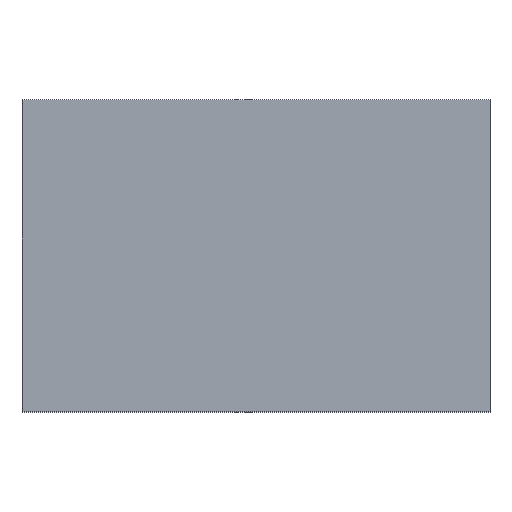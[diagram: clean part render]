
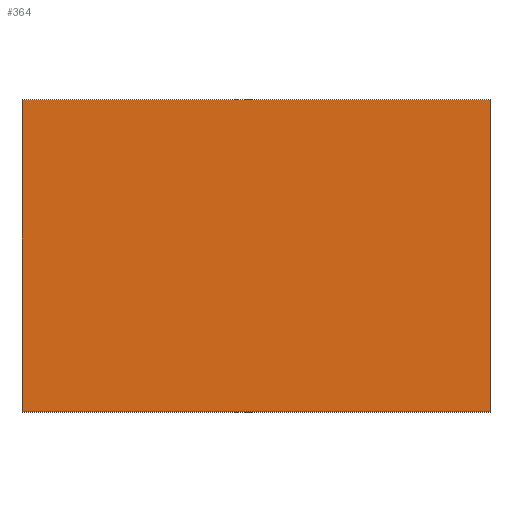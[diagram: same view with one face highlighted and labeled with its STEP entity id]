
A CAD part, top view. The second image highlights one B-rep face of the part: STEP entity #364.
In plain terms, the highlighted planar face has unit normal (0, 0, 1).
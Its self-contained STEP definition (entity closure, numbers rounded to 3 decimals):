
#50 = VERTEX_POINT('',#51);
#51 = CARTESIAN_POINT('',(-0.635,-1.27,4.66));
#58 = PLANE('',#59);
#59 = AXIS2_PLACEMENT_3D('',#60,#61,#62);
#60 = CARTESIAN_POINT('',(-0.635,-1.27,0.5));
#61 = DIRECTION('',(1.,0.,0.));
#62 = DIRECTION('',(0.,0.,1.));
#70 = PLANE('',#71);
#71 = AXIS2_PLACEMENT_3D('',#72,#73,#74);
#72 = CARTESIAN_POINT('',(-0.635,-1.27,0.5));
#73 = DIRECTION('',(0.,1.,0.));
#74 = DIRECTION('',(0.,0.,1.));
#111 = VERTEX_POINT('',#112);
#112 = CARTESIAN_POINT('',(-0.635,1.27,4.66));
#126 = PLANE('',#127);
#127 = AXIS2_PLACEMENT_3D('',#128,#129,#130);
#128 = CARTESIAN_POINT('',(-0.635,1.27,0.5));
#129 = DIRECTION('',(0.,1.,0.));
#130 = DIRECTION('',(0.,0.,1.));
#138 = EDGE_CURVE('',#50,#111,#139,.T.);
#139 = SURFACE_CURVE('',#140,(#144,#151),.PCURVE_S1.);
#140 = LINE('',#141,#142);
#141 = CARTESIAN_POINT('',(-0.635,-1.27,4.66));
#142 = VECTOR('',#143,1.);
#143 = DIRECTION('',(0.,1.,0.));
#144 = PCURVE('',#58,#145);
#145 = DEFINITIONAL_REPRESENTATION('',(#146),#150);
#146 = LINE('',#147,#148);
#147 = CARTESIAN_POINT('',(4.16,0.));
#148 = VECTOR('',#149,1.);
#149 = DIRECTION('',(0.,-1.));
#150 = ( GEOMETRIC_REPRESENTATION_CONTEXT(2) 
PARAMETRIC_REPRESENTATION_CONTEXT() REPRESENTATION_CONTEXT('2D SPACE',''
  ) );
#151 = PCURVE('',#152,#157);
#152 = PLANE('',#153);
#153 = AXIS2_PLACEMENT_3D('',#154,#155,#156);
#154 = CARTESIAN_POINT('',(-0.635,-1.27,4.66));
#155 = DIRECTION('',(0.,0.,1.));
#156 = DIRECTION('',(1.,0.,0.));
#157 = DEFINITIONAL_REPRESENTATION('',(#158),#162);
#158 = LINE('',#159,#160);
#159 = CARTESIAN_POINT('',(0.,0.));
#160 = VECTOR('',#161,1.);
#161 = DIRECTION('',(0.,1.));
#162 = ( GEOMETRIC_REPRESENTATION_CONTEXT(2) 
PARAMETRIC_REPRESENTATION_CONTEXT() REPRESENTATION_CONTEXT('2D SPACE',''
  ) );
#170 = VERTEX_POINT('',#171);
#171 = CARTESIAN_POINT('',(3.175,-1.27,4.66));
#178 = PLANE('',#179);
#179 = AXIS2_PLACEMENT_3D('',#180,#181,#182);
#180 = CARTESIAN_POINT('',(3.175,-1.27,0.5));
#181 = DIRECTION('',(1.,0.,0.));
#182 = DIRECTION('',(0.,0.,1.));
#221 = VERTEX_POINT('',#222);
#222 = CARTESIAN_POINT('',(3.175,1.27,4.66));
#243 = EDGE_CURVE('',#170,#221,#244,.T.);
#244 = SURFACE_CURVE('',#245,(#249,#256),.PCURVE_S1.);
#245 = LINE('',#246,#247);
#246 = CARTESIAN_POINT('',(3.175,-1.27,4.66));
#247 = VECTOR('',#248,1.);
#248 = DIRECTION('',(0.,1.,0.));
#249 = PCURVE('',#178,#250);
#250 = DEFINITIONAL_REPRESENTATION('',(#251),#255);
#251 = LINE('',#252,#253);
#252 = CARTESIAN_POINT('',(4.16,0.));
#253 = VECTOR('',#254,1.);
#254 = DIRECTION('',(0.,-1.));
#255 = ( GEOMETRIC_REPRESENTATION_CONTEXT(2) 
PARAMETRIC_REPRESENTATION_CONTEXT() REPRESENTATION_CONTEXT('2D SPACE',''
  ) );
#256 = PCURVE('',#152,#257);
#257 = DEFINITIONAL_REPRESENTATION('',(#258),#262);
#258 = LINE('',#259,#260);
#259 = CARTESIAN_POINT('',(3.81,0.));
#260 = VECTOR('',#261,1.);
#261 = DIRECTION('',(0.,1.));
#262 = ( GEOMETRIC_REPRESENTATION_CONTEXT(2) 
PARAMETRIC_REPRESENTATION_CONTEXT() REPRESENTATION_CONTEXT('2D SPACE',''
  ) );
#289 = EDGE_CURVE('',#50,#170,#290,.T.);
#290 = SURFACE_CURVE('',#291,(#295,#302),.PCURVE_S1.);
#291 = LINE('',#292,#293);
#292 = CARTESIAN_POINT('',(-0.635,-1.27,4.66));
#293 = VECTOR('',#294,1.);
#294 = DIRECTION('',(1.,0.,0.));
#295 = PCURVE('',#70,#296);
#296 = DEFINITIONAL_REPRESENTATION('',(#297),#301);
#297 = LINE('',#298,#299);
#298 = CARTESIAN_POINT('',(4.16,0.));
#299 = VECTOR('',#300,1.);
#300 = DIRECTION('',(0.,1.));
#301 = ( GEOMETRIC_REPRESENTATION_CONTEXT(2) 
PARAMETRIC_REPRESENTATION_CONTEXT() REPRESENTATION_CONTEXT('2D SPACE',''
  ) );
#302 = PCURVE('',#152,#303);
#303 = DEFINITIONAL_REPRESENTATION('',(#304),#308);
#304 = LINE('',#305,#306);
#305 = CARTESIAN_POINT('',(0.,0.));
#306 = VECTOR('',#307,1.);
#307 = DIRECTION('',(1.,0.));
#308 = ( GEOMETRIC_REPRESENTATION_CONTEXT(2) 
PARAMETRIC_REPRESENTATION_CONTEXT() REPRESENTATION_CONTEXT('2D SPACE',''
  ) );
#336 = EDGE_CURVE('',#111,#221,#337,.T.);
#337 = SURFACE_CURVE('',#338,(#342,#349),.PCURVE_S1.);
#338 = LINE('',#339,#340);
#339 = CARTESIAN_POINT('',(-0.635,1.27,4.66));
#340 = VECTOR('',#341,1.);
#341 = DIRECTION('',(1.,0.,0.));
#342 = PCURVE('',#126,#343);
#343 = DEFINITIONAL_REPRESENTATION('',(#344),#348);
#344 = LINE('',#345,#346);
#345 = CARTESIAN_POINT('',(4.16,0.));
#346 = VECTOR('',#347,1.);
#347 = DIRECTION('',(0.,1.));
#348 = ( GEOMETRIC_REPRESENTATION_CONTEXT(2) 
PARAMETRIC_REPRESENTATION_CONTEXT() REPRESENTATION_CONTEXT('2D SPACE',''
  ) );
#349 = PCURVE('',#152,#350);
#350 = DEFINITIONAL_REPRESENTATION('',(#351),#355);
#351 = LINE('',#352,#353);
#352 = CARTESIAN_POINT('',(0.,2.54));
#353 = VECTOR('',#354,1.);
#354 = DIRECTION('',(1.,0.));
#355 = ( GEOMETRIC_REPRESENTATION_CONTEXT(2) 
PARAMETRIC_REPRESENTATION_CONTEXT() REPRESENTATION_CONTEXT('2D SPACE',''
  ) );
#364 = ADVANCED_FACE('',(#365),#152,.T.);
#365 = FACE_BOUND('',#366,.T.);
#366 = EDGE_LOOP('',(#367,#368,#369,#370));
#367 = ORIENTED_EDGE('',*,*,#138,.F.);
#368 = ORIENTED_EDGE('',*,*,#289,.T.);
#369 = ORIENTED_EDGE('',*,*,#243,.T.);
#370 = ORIENTED_EDGE('',*,*,#336,.F.);
